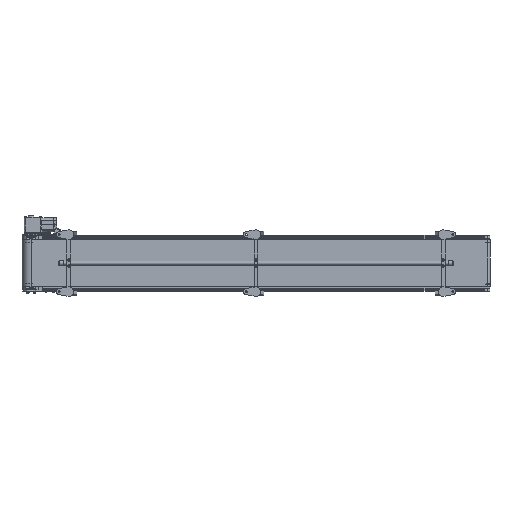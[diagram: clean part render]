
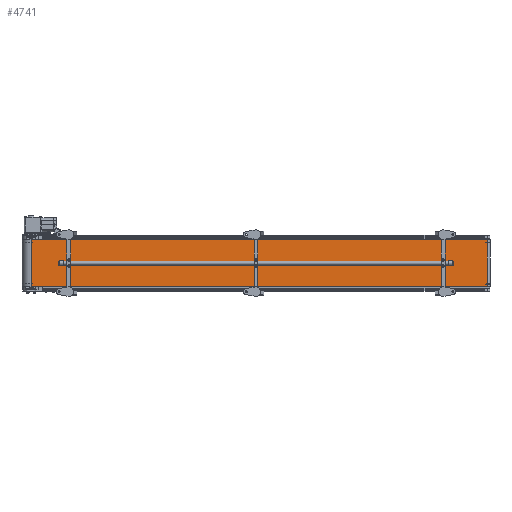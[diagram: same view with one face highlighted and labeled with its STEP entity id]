
A CAD part, front view. The second image highlights one B-rep face of the part: STEP entity #4741.
In plain terms, the highlighted planar face has unit normal (0.028, -1, 0).
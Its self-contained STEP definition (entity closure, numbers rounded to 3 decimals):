
#4741=ADVANCED_FACE('',(#31703),#31702,.F.);
#31702=PLANE('',#48232);
#31703=FACE_OUTER_BOUND('',#48233,.T.);
#48229=CARTESIAN_POINT('',(2992.998,-33.417,-160.));
#48230=DIRECTION('',(-0.028,1.,0.));
#48231=DIRECTION('',(-1.,-0.028,0.));
#48232=AXIS2_PLACEMENT_3D('',#48229,#48230,#48231);
#48233=EDGE_LOOP('',(#62229,#62230,#62231,#62232));
#62229=ORIENTED_EDGE('',*,*,#69661,.T.);
#62230=ORIENTED_EDGE('',*,*,#69668,.F.);
#62231=ORIENTED_EDGE('',*,*,#69655,.F.);
#62232=ORIENTED_EDGE('',*,*,#69669,.T.);
#69655=EDGE_CURVE('',#114230,#114215,#114237,.T.);
#69661=EDGE_CURVE('',#114279,#114271,#114280,.T.);
#69668=EDGE_CURVE('',#114215,#114271,#114327,.T.);
#69669=EDGE_CURVE('',#114230,#114279,#114333,.T.);
#114215=VERTEX_POINT('',#144405);
#114230=VERTEX_POINT('',#144415);
#114237=LINE('',#144420,#144421);
#114271=VERTEX_POINT('',#144441);
#114279=VERTEX_POINT('',#144447);
#114280=LINE('',#144448,#144449);
#114327=LINE('',#144477,#144478);
#114333=LINE('',#144480,#144481);
#144405=CARTESIAN_POINT('',(2983.002,-33.693,150.));
#144415=CARTESIAN_POINT('',(59.109,-114.328,150.));
#144420=CARTESIAN_POINT('',(59.109,-114.328,150.));
#144421=VECTOR('',#144422,2925.005);
#144422=DIRECTION('',(1.,0.028,0.));
#144441=CARTESIAN_POINT('',(2983.002,-33.693,-150.));
#144447=CARTESIAN_POINT('',(59.109,-114.328,-150.));
#144448=CARTESIAN_POINT('',(59.109,-114.328,-150.));
#144449=VECTOR('',#144450,2925.005);
#144450=DIRECTION('',(1.,0.028,0.));
#144477=CARTESIAN_POINT('',(2983.002,-33.693,150.));
#144478=VECTOR('',#144479,300.);
#144479=DIRECTION('',(0.,0.,-1.));
#144480=CARTESIAN_POINT('',(59.109,-114.328,150.));
#144481=VECTOR('',#144482,300.);
#144482=DIRECTION('',(0.,0.,-1.));
